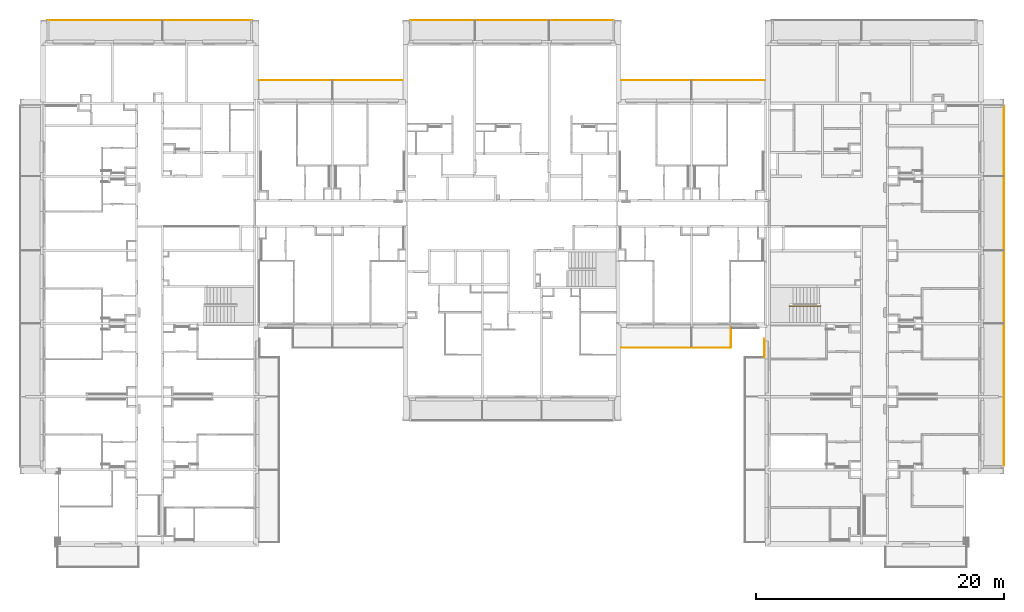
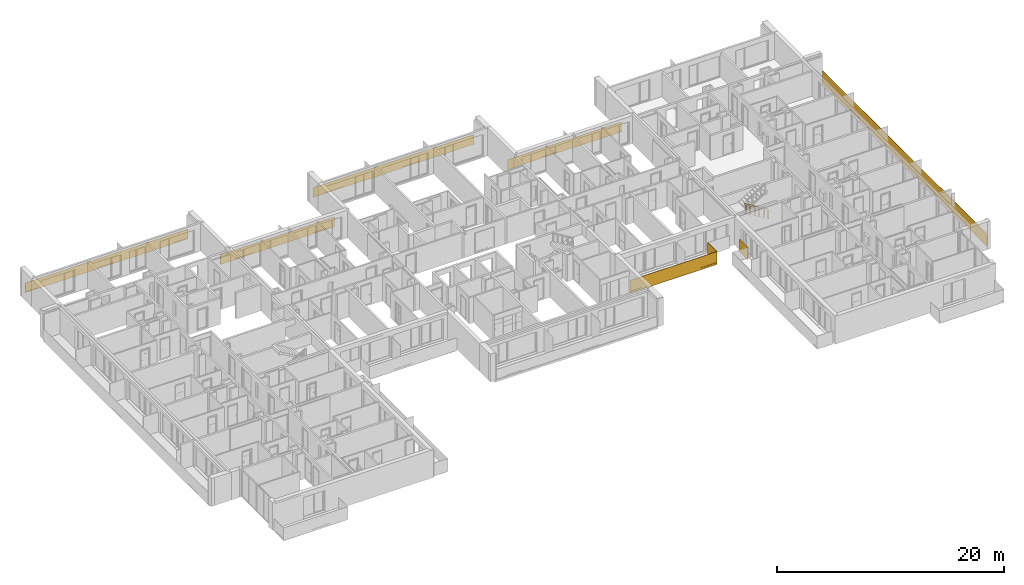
# One storey, part 6 of 64: 8 railings.
"""IFC2X3 building model written with IfcOpenShell, lengths in millimetres."""

from ifc_helpers import new_model, entity, si_unit, converted_unit, derived_unit, money_unit, direction, frame, origin_with_axes, place, context, subcontext, project, spatial, faceted_brep, material, material_list, type_object, element, save


model = new_model("IFC2X3")

# Units and contexts
model_context = context("Model", 3, precision=0.01, world=origin_with_axes(), true_north=direction((0.34421633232, 0.938890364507)))
body_context = subcontext(model_context, "Body", "Model", "MODEL_VIEW")
ifc_project = project(units=[si_unit("LENGTHUNIT", "METRE", prefix="MILLI"), si_unit("AREAUNIT", "SQUARE_METRE"), si_unit("VOLUMEUNIT", "CUBIC_METRE"), converted_unit("PLANEANGLEUNIT", "DEGREE", entity("IfcPlaneAngleMeasure", 0.0174532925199), si_unit("PLANEANGLEUNIT", "RADIAN"), dimensions=[0, 0, 0, 0, 0, 0, 0]), si_unit("SOLIDANGLEUNIT", "STERADIAN"), money_unit("USD"), converted_unit("TIMEUNIT", "Year", entity("IfcTimeMeasure", 31556926.0), si_unit("TIMEUNIT", "SECOND"), dimensions=[0, 0, 1, 0, 0, 0, 0]), si_unit("MASSUNIT", "GRAM", prefix="KILO"), si_unit("THERMODYNAMICTEMPERATUREUNIT", "DEGREE_CELSIUS"), si_unit("LUMINOUSINTENSITYUNIT", "LUMEN"), si_unit("ENERGYUNIT", "JOULE", prefix="MEGA"), derived_unit("THERMALCONDUCTANCEUNIT", [(si_unit("POWERUNIT", "WATT"), 1), (si_unit("LENGTHUNIT", "METRE"), -1), (si_unit("THERMODYNAMICTEMPERATUREUNIT", "KELVIN"), -1)]), derived_unit("SPECIFICHEATCAPACITYUNIT", [(si_unit("ENERGYUNIT", "JOULE"), 1), (si_unit("MASSUNIT", "GRAM", prefix="KILO"), -1), (si_unit("THERMODYNAMICTEMPERATUREUNIT", "KELVIN"), -1)]), derived_unit("MASSDENSITYUNIT", [(si_unit("MASSUNIT", "GRAM", prefix="KILO"), 1), (si_unit("VOLUMEUNIT", "CUBIC_METRE"), -1)])], contexts=[model_context])

# Site, building, storey
site_placement = place(None, origin_with_axes())
site = spatial("IfcSite", under=ifc_project, at=site_placement, Name="USTRONIE MORSKIE", CompositionType="ELEMENT")
building_placement = place(site_placement, origin_with_axes())
building = spatial("IfcBuilding", under=site, at=building_placement, Name="Budynek", CompositionType="ELEMENT")
storey_placement = place(building_placement, frame((0.0, 0.0, 7000.0), z_axis=(0.0, 0.0, 1.0), x_axis=(1.0, 0.0, 0.0)))
storey = spatial("IfcBuildingStorey", under=building, at=storey_placement, Name="PIĘTRO 2", CompositionType="ELEMENT", Elevation=7000.0)

# Railings
ifc_material_1 = material(Name="Szkło struktualne")
ifc_material_2 = material(Name="Profile aluminiowe")
ifc_material_list_1 = material_list([ifc_material_1, ifc_material_2])
railing_type = type_object("IfcRailingType", Name="Typ balustrady", PredefinedType="NOTDEFINED")
for number, where, z_axis, x_axis, name in (
    (1, (396617.920919, 746801.194135, 30.0), (0.0, 0.0, 1.0), (1.0, 0.0, 0.0), "BL1"),
    (2, (367367.920919, 746801.194135, 30.0), (0.0, 0.0, 1.0), (1.0, 0.0, 0.0), "BL1"),
):
    element("IfcRailing", number, at=place(storey_placement, frame(where, z_axis=z_axis, x_axis=x_axis)), inside=storey, type_object=railing_type, material=ifc_material_list_1, Name=name, PredefinedType="NOTDEFINED", context=body_context, shape_type="Brep", body=[
        faceted_brep([(11650.0, -240.0, -100.0), (0.0, -240.0, -100.0), (0.0, -240.0, 950.0), (11650.0, -240.0, 950.0), (0.0, -260.0, -100.0), (11650.0, -260.0, -100.0), (0.0, -260.0, 950.0), (11650.0, -260.0, 950.0)], [[[0, 1, 2, 3]], [[4, 1, 0, 5]], [[6, 2, 1, 4]], [[3, 2, 6, 7]], [[0, 3, 7, 5]], [[6, 4, 5, 7]]]),
        faceted_brep([(11650.0, -265.0, -5.0), (0.0, -265.0, -5.0), (0.0, -265.0, -105.0), (11650.0, -265.0, -105.0), (11650.0, -260.0, -5.0), (0.0, -260.0, -5.0), (0.0, -260.0, -100.0), (0.0, -240.0, -100.0), (0.0, -240.0, -5.0), (0.0, -235.0, -5.0), (0.0, -235.0, -105.0), (11650.0, -235.0, -105.0), (11650.0, -235.0, -5.0), (11650.0, -240.0, -5.0), (11650.0, -240.0, -100.0), (11650.0, -260.0, -100.0)], [[[0, 1, 2, 3]], [[1, 0, 4, 5]], [[6, 7, 8, 9, 10, 2, 1, 5]], [[10, 11, 3, 2]], [[11, 12, 13, 14, 15, 4, 0, 3]], [[15, 6, 5, 4]], [[7, 6, 15, 14]], [[8, 7, 14, 13]], [[9, 8, 13, 12]], [[11, 10, 9, 12]]]),
    ])
railing_1_placement = place(storey_placement, frame((427517.920919, 744501.199036, -200.0), z_axis=(0.0, 0.0, 1.0), x_axis=(1.0, 0.0, 0.0)))
element("IfcRailing", 3, at=railing_1_placement, inside=storey, type_object=railing_type, material=ifc_material_list_1, Name="BL1", PredefinedType="NOTDEFINED", context=body_context, shape_type="Brep", body=[
    faceted_brep([(9.99999999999, -29070.0, -100.0), (9.99999999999, -20.0, -100.0), (9.99999999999, -20.0, 1250.0), (9.99999999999, -29070.0, 1250.0), (-9.99999999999, -20.0, -100.0), (-9.99999999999, -29070.0, -100.0), (-9.99999999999, -20.0, 1250.0), (-9.99999999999, -29070.0, 1250.0)], [[[0, 1, 2, 3]], [[4, 1, 0, 5]], [[6, 2, 1, 4]], [[3, 2, 6, 7]], [[0, 3, 7, 5]], [[6, 4, 5, 7]]]),
    faceted_brep([(-15.0, -29070.0, -5.0), (-15.0, -20.0, -5.0), (-15.0, -20.0, -105.0), (-15.0, -29070.0, -105.0), (-9.99999999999, -29070.0, -5.0), (-9.99999999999, -20.0, -5.0), (-9.99999999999, -20.0, -100.0), (9.99999999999, -20.0, -100.0), (9.99999999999, -20.0, -5.0), (15.0, -20.0, -5.0), (15.0, -20.0, -105.0), (15.0, -29070.0, -105.0), (15.0, -29070.0, -5.0), (9.99999999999, -29070.0, -5.0), (9.99999999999, -29070.0, -100.0), (-9.99999999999, -29070.0, -100.0)], [[[0, 1, 2, 3]], [[1, 0, 4, 5]], [[6, 7, 8, 9, 10, 2, 1, 5]], [[10, 11, 3, 2]], [[11, 12, 13, 14, 15, 4, 0, 3]], [[15, 6, 5, 4]], [[7, 6, 15, 14]], [[8, 7, 14, 13]], [[9, 8, 13, 12]], [[11, 10, 9, 12]]]),
])
railing_2_placement = place(storey_placement, frame((379997.772717, 751416.184464, 30.0), z_axis=(0.0, 0.0, 1.0), x_axis=(1.0, 0.0, 0.0)))
element("IfcRailing", 4, at=railing_2_placement, inside=storey, type_object=railing_type, material=ifc_material_list_1, Name="BL1", PredefinedType="NOTDEFINED", context=body_context, shape_type="Brep", body=[
    faceted_brep([(16035.1447373, -9.99970433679, -100.0), (-394.85486771, -10.1379253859, -100.0), (-394.85486771, -10.1379253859, 950.0), (16035.1447373, -9.99970433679, 950.0), (-394.854699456, -30.1379253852, -100.0), (16035.1449055, -29.9997043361, -100.0), (-394.854699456, -30.1379253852, 950.0), (16035.1449055, -29.9997043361, 950.0)], [[[0, 1, 2, 3]], [[4, 1, 0, 5]], [[6, 2, 1, 4]], [[3, 2, 6, 7]], [[0, 3, 7, 5]], [[6, 4, 5, 7]]]),
    faceted_brep([(16035.1449476, -34.999704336, -5.0), (-394.854657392, -35.1379253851, -5.0), (-394.854657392, -35.1379253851, -105.0), (16035.1449476, -34.999704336, -105.0), (16035.1449055, -29.9997043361, -5.0), (-394.854699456, -30.1379253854, -5.0), (-394.854699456, -30.1379253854, -100.0), (-394.85486771, -10.1379253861, -100.0), (-394.85486771, -10.1379253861, -5.0), (-394.854909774, -5.13792538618, -5.0), (-394.854909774, -5.13792538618, -105.0), (16035.1446952, -4.99970433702, -105.0), (16035.1446952, -4.99970433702, -5.0), (16035.1447373, -9.99970433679, -5.0), (16035.1447373, -9.99970433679, -100.0), (16035.1449055, -29.9997043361, -100.0)], [[[0, 1, 2, 3]], [[1, 0, 4, 5]], [[6, 7, 8, 9, 10, 2, 1, 5]], [[10, 11, 3, 2]], [[11, 12, 13, 14, 15, 4, 0, 3]], [[15, 6, 5, 4]], [[7, 6, 15, 14]], [[8, 7, 14, 13]], [[9, 8, 13, 12]], [[11, 10, 9, 12]]]),
])
railing_3_placement = place(storey_placement, frame((366747.920919, 751396.199036, 30.0), z_axis=(0.0, 0.0, 1.0), x_axis=(-1.0, 0.0, 0.0)))
element("IfcRailing", 5, at=railing_3_placement, inside=storey, type_object=railing_type, material=ifc_material_list_1, Name="BL1", PredefinedType="NOTDEFINED", context=body_context, shape_type="Brep", body=[
    faceted_brep([(16460.0, 9.99999999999, -100.0), (-100.0, 9.99999999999, -100.0), (-100.0, 9.99999999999, 950.0), (16460.0, 9.99999999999, 950.0), (-100.0, -9.99999999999, -100.0), (16460.0, -9.99999999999, -100.0), (-100.0, -9.99999999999, 950.0), (16460.0, -9.99999999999, 950.0)], [[[0, 1, 2, 3]], [[4, 1, 0, 5]], [[6, 2, 1, 4]], [[3, 2, 6, 7]], [[0, 3, 7, 5]], [[6, 4, 5, 7]]]),
    faceted_brep([(16460.0, -15.0, -5.0), (-100.0, -15.0, -5.0), (-100.0, -15.0, -105.0), (16460.0, -15.0, -105.0), (16460.0, -9.99999999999, -5.0), (-100.0, -9.99999999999, -5.0), (-100.0, -9.99999999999, -100.0), (-100.0, 9.99999999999, -100.0), (-100.0, 9.99999999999, -5.0), (-100.0, 15.0, -5.0), (-100.0, 15.0, -105.0), (16460.0, 15.0, -105.0), (16460.0, 15.0, -5.0), (16460.0, 9.99999999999, -5.0), (16460.0, 9.99999999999, -100.0), (16460.0, -9.99999999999, -100.0)], [[[0, 1, 2, 3]], [[1, 0, 4, 5]], [[6, 7, 8, 9, 10, 2, 1, 5]], [[10, 11, 3, 2]], [[11, 12, 13, 14, 15, 4, 0, 3]], [[15, 6, 5, 4]], [[7, 6, 15, 14]], [[8, 7, 14, 13]], [[9, 8, 13, 12]], [[11, 10, 9, 12]]]),
])
railing_4_placement = place(storey_placement, frame((408257.883673, 724111.198359, 0.0), z_axis=(0.0, 0.0, 1.0), x_axis=(1.0, 0.0, 0.0)))
element("IfcRailing", 6, at=railing_4_placement, inside=storey, type_object=railing_type, material=ifc_material_list_1, Name="BL1", PredefinedType="NOTDEFINED", context=body_context, shape_type="Brep", body=[
    faceted_brep([(-60.0, 1550.0, -300.0), (-60.0, 80.0, -300.0), (-60.0, 80.0, 1070.0), (-60.0, 1550.0, 1070.0), (-40.0, 80.0, -300.0), (-40.0, 1550.0, -300.0), (-40.0, 80.0, 1070.0), (-40.0, 1550.0, 1070.0)], [[[0, 1, 2, 3]], [[4, 1, 0, 5]], [[6, 2, 1, 4]], [[3, 2, 6, 7]], [[0, 3, 7, 5]], [[6, 4, 5, 7]]]),
    faceted_brep([(-35.0, 1550.0, -105.0), (-35.0, 80.0, -105.0), (-35.0, 80.0, -305.0), (-35.0, 1550.0, -305.0), (-40.0, 1550.0, -105.0), (-40.0, 80.0, -105.0), (-40.0, 80.0, -300.0), (-60.0, 80.0, -300.0), (-60.0, 80.0, -105.0), (-65.0, 80.0, -105.0), (-65.0, 80.0, -305.0), (-65.0, 1550.0, -305.0), (-65.0, 1550.0, -105.0), (-60.0, 1550.0, -105.0), (-60.0, 1550.0, -300.0), (-40.0, 1550.0, -300.0)], [[[0, 1, 2, 3]], [[1, 0, 4, 5]], [[6, 7, 8, 9, 10, 2, 1, 5]], [[10, 11, 3, 2]], [[11, 12, 13, 14, 15, 4, 0, 3]], [[15, 6, 5, 4]], [[7, 6, 15, 14]], [[8, 7, 14, 13]], [[9, 8, 13, 12]], [[11, 10, 9, 12]]]),
])
ifc_material_list_2 = material_list([ifc_material_1, ifc_material_2, ifc_material_1, ifc_material_2])
railing_5_placement = place(storey_placement, frame((396619.640549, 725001.198359, 0.0), z_axis=(0.0, 0.0, 1.0), x_axis=(-1.0, 0.0, 0.0)))
element("IfcRailing", 7, at=railing_5_placement, inside=storey, type_object=railing_type, material=ifc_material_list_2, Name="BL1", PredefinedType="NOTDEFINED", context=body_context, shape_type="Brep", body=[
    faceted_brep([(-29.9999996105, 40.0000002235, -300.00000039), (-29.9999996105, 40.0000002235, 1069.99999972), (-8878.27323778, 40.0000002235, 1069.99999972), (-8878.27323778, 40.0000002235, -300.00000039), (-29.9999996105, 59.9999997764, 1069.99999972), (-29.9999996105, 59.9999997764, -300.00000039), (-8898.27323733, 59.9999997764, 1069.99999972), (-8898.27323733, 59.9999997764, -300.00000039)], [[[0, 1, 2, 3]], [[4, 1, 0, 5]], [[2, 1, 4, 6]], [[3, 2, 6, 7]], [[5, 0, 3, 7]], [[6, 4, 5, 7]]]),
    faceted_brep([(-8888.27323738, 64.9999999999, -105.0), (-30.0, 64.9999999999, -105.0), (-30.0, 64.9999999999, -305.0), (-8888.27323738, 64.9999999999, -305.0), (-8888.27323738, 59.9999999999, -105.0), (-30.0, 59.9999999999, -105.0), (-30.0, 59.9999999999, -300.0), (-30.0, 40.0, -300.0), (-30.0, 40.0, -105.0), (-30.0, 35.0, -105.0), (-30.0, 35.0, -305.0), (-8888.27323738, 35.0, -305.0), (-8888.27323738, 35.0, -105.0), (-8888.27323738, 40.0, -105.0), (-8888.27323738, 40.0, -300.0), (-8888.27323738, 59.9999999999, -300.0)], [[[0, 1, 2, 3]], [[1, 0, 4, 5]], [[6, 7, 8, 9, 10, 2, 1, 5]], [[10, 11, 3, 2]], [[11, 12, 13, 14, 15, 4, 0, 3]], [[15, 6, 5, 4]], [[7, 6, 15, 14]], [[8, 7, 14, 13]], [[9, 8, 13, 12]], [[11, 10, 9, 12]]]),
    faceted_brep([(-8878.2732376, 40.000000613, -300.00000039), (-8878.2732376, 40.000000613, 1069.99999972), (-8878.2732376, -1590.00067728, 1069.99999972), (-8878.2732376, -1590.00067728, -300.00000039), (-8898.27323715, 60.0000001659, 1069.99999972), (-8898.27323715, 60.0000001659, -300.00000039), (-8898.27323715, -1590.00067728, 1069.99999972), (-8898.27323715, -1590.00067728, -300.00000039)], [[[0, 1, 2, 3]], [[4, 1, 0, 5]], [[2, 1, 4, 6]], [[3, 2, 6, 7]], [[5, 0, 3, 7]], [[6, 4, 5, 7]]]),
    faceted_brep([(-8903.27323738, -1590.00067759, -105.0), (-8903.27323738, 50.0, -105.0), (-8903.27323738, 50.0, -305.0), (-8903.27323738, -1590.00067759, -305.0), (-8898.27323738, -1590.00067759, -105.0), (-8898.27323738, 50.0, -105.0), (-8898.27323738, 50.0, -300.0), (-8878.27323738, 50.0, -300.0), (-8878.27323738, 50.0, -105.0), (-8873.27323738, 50.0, -105.0), (-8873.27323738, 50.0, -305.0), (-8873.27323738, -1590.00067759, -305.0), (-8873.27323738, -1590.00067759, -105.0), (-8878.27323738, -1590.00067759, -105.0), (-8878.27323738, -1590.00067759, -300.0), (-8898.27323738, -1590.00067759, -300.0)], [[[0, 1, 2, 3]], [[1, 0, 4, 5]], [[6, 7, 8, 9, 10, 2, 1, 5]], [[10, 11, 3, 2]], [[11, 12, 13, 14, 15, 4, 0, 3]], [[15, 6, 5, 4]], [[7, 6, 15, 14]], [[8, 7, 14, 13]], [[9, 8, 13, 12]], [[11, 10, 9, 12]]]),
])
ifc_material_3 = material(Name="Stal konstrukcyjna")
ifc_material_4 = material(Name="Stal nierdzewna")
ifc_material_list_3 = material_list([ifc_material_3, ifc_material_3, ifc_material_4, ifc_material_4, ifc_material_4, ifc_material_3, ifc_material_3, ifc_material_3, ifc_material_3, ifc_material_3, ifc_material_3, ifc_material_3, ifc_material_3, ifc_material_3, ifc_material_3, ifc_material_3, ifc_material_3, ifc_material_3, ifc_material_3, ifc_material_3, ifc_material_3, ifc_material_3, ifc_material_3, ifc_material_3, ifc_material_3, ifc_material_3])
railing_6_placement = place(storey_placement, frame((412739.660049, 728301.198905, 166.666666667), z_axis=(0.0, 0.0, 1.0), x_axis=(1.0, 0.0, 0.0)))
element("IfcRailing", 8, at=railing_6_placement, inside=storey, type_object=railing_type, material=ifc_material_list_3, Name="BL1", PredefinedType="NOTDEFINED", context=body_context, shape_type="Brep", body=[
    faceted_brep([(-9.99999999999, 45.0, -144.051724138), (-9.99999999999, 25.0, -144.051724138), (-9.99999999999, 25.0, 755.948275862), (-9.99999999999, 45.0, 755.948275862), (9.99999999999, 45.0, -155.948275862), (9.99999999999, 25.0, -155.948275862), (-5.0, 40.0, -147.025862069), (-5.0, 30.0, -147.025862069), (5.0, 30.0, -152.974137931), (5.0, 40.0, -152.974137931), (9.99999999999, 25.0, 744.051724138), (9.99999999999, 45.0, 744.051724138), (-5.0, 40.0, 752.974137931), (5.0, 40.0, 747.025862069), (5.0, 30.0, 747.025862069), (-5.0, 30.0, 752.974137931)], [[[0, 1, 2, 3]], [[0, 4, 5, 1], [6, 7, 8, 9]], [[1, 5, 10, 2]], [[3, 2, 10, 11], [12, 13, 14, 15]], [[4, 0, 3, 11]], [[5, 4, 11, 10]], [[7, 6, 12, 15]], [[8, 7, 15, 14]], [[9, 8, 14, 13]], [[6, 9, 13, 12]]]),
    faceted_brep([(-2531.73913043, 45.0, 1355.94827586), (-2531.73913043, 25.0, 1355.94827586), (-2531.73913043, 25.0, 2255.94827586), (-2531.73913043, 45.0, 2255.94827586), (-2511.73913043, 45.0, 1344.05172414), (-2511.73913043, 25.0, 1344.05172414), (-2526.73913043, 40.0, 1352.97413793), (-2526.73913043, 30.0, 1352.97413793), (-2516.73913043, 30.0, 1347.02586207), (-2516.73913043, 40.0, 1347.02586207), (-2511.73913043, 25.0, 2244.05172414), (-2511.73913043, 45.0, 2244.05172414), (-2526.73913043, 40.0, 2252.97413793), (-2516.73913043, 40.0, 2247.02586207), (-2516.73913043, 30.0, 2247.02586207), (-2526.73913043, 30.0, 2252.97413793)], [[[0, 1, 2, 3]], [[0, 4, 5, 1], [6, 7, 8, 9]], [[1, 5, 10, 2]], [[3, 2, 10, 11], [12, 13, 14, 15]], [[4, 0, 3, 11]], [[5, 4, 11, 10]], [[7, 6, 12, 15]], [[8, 7, 15, 14]], [[9, 8, 14, 13]], [[6, 9, 13, 12]]]),
    faceted_brep([(0.0, 59.9999999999, 900.0), (-12.7805831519, 59.9999999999, 878.513802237), (-2534.51971359, 59.9999999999, 2378.51380224), (-2521.73913043, 59.9999999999, 2400.0), (0.0, 9.99999999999, 900.0), (-12.7805831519, 9.99999999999, 878.513802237), (-12.7805831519, 25.0, 878.513802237), (-10.2244665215, 25.0, 882.81104179), (-10.2244665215, 45.0, 882.81104179), (-12.7805831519, 45.0, 878.513802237), (-2534.51971359, 45.0, 2378.51380224), (-2531.96359696, 45.0, 2382.81104179), (-2531.96359696, 25.0, 2382.81104179), (-2534.51971359, 25.0, 2378.51380224), (-2534.51971359, 9.99999999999, 2378.51380224), (-2521.73913043, 9.99999999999, 2400.0)], [[[0, 1, 2, 3]], [[0, 4, 5, 6, 7, 8, 9, 1]], [[1, 9, 10, 2]], [[3, 2, 10, 11, 12, 13, 14, 15]], [[4, 0, 3, 15]], [[5, 4, 15, 14]], [[6, 5, 14, 13]], [[7, 6, 13, 12]], [[8, 7, 12, 11]], [[9, 8, 11, 10]]]),
    faceted_brep([(-12.7805831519, 45.0, 878.513802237), (-12.7805831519, 25.0, 878.513802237), (-2534.51971359, 25.0, 2378.51380224), (-2534.51971359, 45.0, 2378.51380224), (-10.2244665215, 45.0, 882.81104179), (-10.2244665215, 25.0, 882.81104179), (-2531.96359696, 25.0, 2382.81104179), (-2531.96359696, 45.0, 2382.81104179)], [[[0, 1, 2, 3]], [[0, 4, 5, 1]], [[1, 5, 6, 2]], [[3, 2, 6, 7]], [[4, 0, 3, 7]], [[5, 4, 7, 6]]]),
    faceted_brep([(-45.4723955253, 45.0, 776.472725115), (-45.4723955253, 25.0, 776.472725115), (-45.4723955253, 25.0, 897.95979408), (-45.4723955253, 45.0, 897.95979408), (-40.4723955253, 45.0, 776.472725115), (-40.4723955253, 25.0, 776.472725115), (-40.4723955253, 25.0, 896.472725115), (-42.9723955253, 25.0, 897.95979408), (-42.9723955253, 45.0, 897.95979408), (-40.4723955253, 45.0, 896.472725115)], [[[0, 1, 2, 3]], [[0, 4, 5, 1]], [[1, 5, 6, 7, 2]], [[3, 2, 7, 8]], [[4, 0, 3, 8, 9]], [[5, 4, 9, 6]], [[7, 6, 9, 8]]]),
    faceted_brep([(-2481.26673491, 45.0, 2225.35039251), (-2481.26673491, 25.0, 2225.35039251), (-2481.26673491, 25.0, 2346.83746147), (-2481.26673491, 45.0, 2346.83746147), (-2476.26673491, 45.0, 2225.35039251), (-2476.26673491, 25.0, 2225.35039251), (-2476.26673491, 25.0, 2345.35039251), (-2478.76673491, 25.0, 2346.83746147), (-2478.76673491, 45.0, 2346.83746147), (-2476.26673491, 45.0, 2345.35039251)], [[[0, 1, 2, 3]], [[0, 4, 5, 1]], [[1, 5, 6, 7, 2]], [[3, 2, 7, 8]], [[4, 0, 3, 8, 9]], [[5, 4, 9, 6]], [[7, 6, 9, 8]]]),
    faceted_brep([(0.0, 54.9999999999, 750.0), (-2.55611663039, 54.9999999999, 745.702760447), (-2524.29524707, 54.9999999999, 2245.70276045), (-2521.73913043, 54.9999999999, 2250.0), (0.0, 15.0, 750.0), (-2.55611663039, 15.0, 745.702760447), (-2524.29524707, 15.0, 2245.70276045), (-2521.73913043, 15.0, 2250.0)], [[[0, 1, 2, 3]], [[0, 4, 5, 1]], [[1, 5, 6, 2]], [[3, 2, 6, 7]], [[4, 0, 3, 7]], [[5, 4, 7, 6]]]),
    faceted_brep([(1.27805831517, 54.9999999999, -157.851380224), (-1.27805831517, 54.9999999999, -162.148619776), (-2523.01718875, 54.9999999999, 1337.85138022), (-2520.46107212, 54.9999999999, 1342.14861978), (1.27805831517, 15.0, -157.851380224), (-1.27805831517, 15.0, -162.148619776), (-2523.01718875, 15.0, 1337.85138022), (-2520.46107212, 15.0, 1342.14861978)], [[[0, 1, 2, 3]], [[0, 4, 5, 1]], [[1, 5, 6, 2]], [[3, 2, 6, 7]], [[4, 0, 3, 7]], [[5, 4, 7, 6]]]),
    faceted_brep([(-117.124505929, 47.5, -85.3311128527), (-117.124505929, 22.4999999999, -85.3311128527), (-117.124505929, 22.4999999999, 814.668887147), (-117.124505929, 47.5, 814.668887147), (-112.124505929, 47.5, -88.3052507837), (-112.124505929, 22.4999999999, -88.3052507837), (-112.124505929, 22.4999999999, 811.694749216), (-112.124505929, 47.5, 811.694749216)], [[[0, 1, 2, 3]], [[0, 4, 5, 1]], [[1, 5, 6, 2]], [[3, 2, 6, 7]], [[4, 0, 3, 7]], [[5, 4, 7, 6]]]),
    faceted_brep([(-231.749011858, 47.5, -17.1492946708), (-231.749011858, 22.4999999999, -17.1492946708), (-231.749011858, 22.4999999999, 882.850705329), (-231.749011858, 47.5, 882.850705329), (-226.749011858, 47.5, -20.1234326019), (-226.749011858, 22.4999999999, -20.1234326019), (-226.749011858, 22.4999999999, 879.876567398), (-226.749011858, 47.5, 879.876567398)], [[[0, 1, 2, 3]], [[0, 4, 5, 1]], [[1, 5, 6, 2]], [[3, 2, 6, 7]], [[4, 0, 3, 7]], [[5, 4, 7, 6]]]),
    faceted_brep([(-346.373517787, 47.5, 51.032523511), (-346.373517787, 22.4999999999, 51.032523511), (-346.373517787, 22.4999999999, 951.032523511), (-346.373517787, 47.5, 951.032523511), (-341.373517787, 47.5, 48.0583855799), (-341.373517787, 22.4999999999, 48.0583855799), (-341.373517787, 22.4999999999, 948.05838558), (-341.373517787, 47.5, 948.05838558)], [[[0, 1, 2, 3]], [[0, 4, 5, 1]], [[1, 5, 6, 2]], [[3, 2, 6, 7]], [[4, 0, 3, 7]], [[5, 4, 7, 6]]]),
    faceted_brep([(-460.998023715, 47.5, 119.214341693), (-460.998023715, 22.4999999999, 119.214341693), (-460.998023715, 22.4999999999, 1019.21434169), (-460.998023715, 47.5, 1019.21434169), (-455.998023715, 47.5, 116.240203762), (-455.998023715, 22.4999999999, 116.240203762), (-455.998023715, 22.4999999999, 1016.24020376), (-455.998023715, 47.5, 1016.24020376)], [[[0, 1, 2, 3]], [[0, 4, 5, 1]], [[1, 5, 6, 2]], [[3, 2, 6, 7]], [[4, 0, 3, 7]], [[5, 4, 7, 6]]]),
    faceted_brep([(-575.622529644, 47.5, 187.396159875), (-575.622529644, 22.4999999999, 187.396159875), (-575.622529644, 22.4999999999, 1087.39615987), (-575.622529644, 47.5, 1087.39615987), (-570.622529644, 47.5, 184.422021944), (-570.622529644, 22.4999999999, 184.422021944), (-570.622529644, 22.4999999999, 1084.42202194), (-570.622529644, 47.5, 1084.42202194)], [[[0, 1, 2, 3]], [[0, 4, 5, 1]], [[1, 5, 6, 2]], [[3, 2, 6, 7]], [[4, 0, 3, 7]], [[5, 4, 7, 6]]]),
    faceted_brep([(-690.247035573, 47.5, 255.577978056), (-690.247035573, 22.4999999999, 255.577978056), (-690.247035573, 22.4999999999, 1155.57797806), (-690.247035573, 47.5, 1155.57797806), (-685.247035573, 47.5, 252.603840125), (-685.247035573, 22.4999999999, 252.603840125), (-685.247035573, 22.4999999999, 1152.60384013), (-685.247035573, 47.5, 1152.60384013)], [[[0, 1, 2, 3]], [[0, 4, 5, 1]], [[1, 5, 6, 2]], [[3, 2, 6, 7]], [[4, 0, 3, 7]], [[5, 4, 7, 6]]]),
    faceted_brep([(-804.871541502, 47.5, 323.759796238), (-804.871541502, 22.4999999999, 323.759796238), (-804.871541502, 22.4999999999, 1223.75979624), (-804.871541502, 47.5, 1223.75979624), (-799.871541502, 47.5, 320.785658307), (-799.871541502, 22.4999999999, 320.785658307), (-799.871541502, 22.4999999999, 1220.78565831), (-799.871541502, 47.5, 1220.78565831)], [[[0, 1, 2, 3]], [[0, 4, 5, 1]], [[1, 5, 6, 2]], [[3, 2, 6, 7]], [[4, 0, 3, 7]], [[5, 4, 7, 6]]]),
    faceted_brep([(-919.496047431, 47.5, 391.94161442), (-919.496047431, 22.4999999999, 391.94161442), (-919.496047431, 22.4999999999, 1291.94161442), (-919.496047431, 47.5, 1291.94161442), (-914.496047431, 47.5, 388.967476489), (-914.496047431, 22.4999999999, 388.967476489), (-914.496047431, 22.4999999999, 1288.96747649), (-914.496047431, 47.5, 1288.96747649)], [[[0, 1, 2, 3]], [[0, 4, 5, 1]], [[1, 5, 6, 2]], [[3, 2, 6, 7]], [[4, 0, 3, 7]], [[5, 4, 7, 6]]]),
    faceted_brep([(-1034.12055336, 47.5, 460.123432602), (-1034.12055336, 22.4999999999, 460.123432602), (-1034.12055336, 22.4999999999, 1360.1234326), (-1034.12055336, 47.5, 1360.1234326), (-1029.12055336, 47.5, 457.149294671), (-1029.12055336, 22.4999999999, 457.149294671), (-1029.12055336, 22.4999999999, 1357.14929467), (-1029.12055336, 47.5, 1357.14929467)], [[[0, 1, 2, 3]], [[0, 4, 5, 1]], [[1, 5, 6, 2]], [[3, 2, 6, 7]], [[4, 0, 3, 7]], [[5, 4, 7, 6]]]),
    faceted_brep([(-1148.74505929, 47.5, 528.305250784), (-1148.74505929, 22.4999999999, 528.305250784), (-1148.74505929, 22.4999999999, 1428.30525078), (-1148.74505929, 47.5, 1428.30525078), (-1143.74505929, 47.5, 525.331112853), (-1143.74505929, 22.4999999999, 525.331112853), (-1143.74505929, 22.4999999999, 1425.33111285), (-1143.74505929, 47.5, 1425.33111285)], [[[0, 1, 2, 3]], [[0, 4, 5, 1]], [[1, 5, 6, 2]], [[3, 2, 6, 7]], [[4, 0, 3, 7]], [[5, 4, 7, 6]]]),
    faceted_brep([(-1263.36956522, 47.5, 596.487068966), (-1263.36956522, 22.4999999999, 596.487068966), (-1263.36956522, 22.4999999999, 1496.48706897), (-1263.36956522, 47.5, 1496.48706897), (-1258.36956522, 47.5, 593.512931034), (-1258.36956522, 22.4999999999, 593.512931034), (-1258.36956522, 22.4999999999, 1493.51293103), (-1258.36956522, 47.5, 1493.51293103)], [[[0, 1, 2, 3]], [[0, 4, 5, 1]], [[1, 5, 6, 2]], [[3, 2, 6, 7]], [[4, 0, 3, 7]], [[5, 4, 7, 6]]]),
    faceted_brep([(-1377.99407115, 47.5, 664.668887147), (-1377.99407115, 22.4999999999, 664.668887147), (-1377.99407115, 22.4999999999, 1564.66888715), (-1377.99407115, 47.5, 1564.66888715), (-1372.99407115, 47.5, 661.694749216), (-1372.99407115, 22.4999999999, 661.694749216), (-1372.99407115, 22.4999999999, 1561.69474922), (-1372.99407115, 47.5, 1561.69474922)], [[[0, 1, 2, 3]], [[0, 4, 5, 1]], [[1, 5, 6, 2]], [[3, 2, 6, 7]], [[4, 0, 3, 7]], [[5, 4, 7, 6]]]),
    faceted_brep([(-1492.61857708, 47.5, 732.850705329), (-1492.61857708, 22.4999999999, 732.850705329), (-1492.61857708, 22.4999999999, 1632.85070533), (-1492.61857708, 47.5, 1632.85070533), (-1487.61857708, 47.5, 729.876567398), (-1487.61857708, 22.4999999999, 729.876567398), (-1487.61857708, 22.4999999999, 1629.8765674), (-1487.61857708, 47.5, 1629.8765674)], [[[0, 1, 2, 3]], [[0, 4, 5, 1]], [[1, 5, 6, 2]], [[3, 2, 6, 7]], [[4, 0, 3, 7]], [[5, 4, 7, 6]]]),
    faceted_brep([(-1607.243083, 47.5, 801.032523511), (-1607.243083, 22.4999999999, 801.032523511), (-1607.243083, 22.4999999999, 1701.03252351), (-1607.243083, 47.5, 1701.03252351), (-1602.243083, 47.5, 798.05838558), (-1602.243083, 22.4999999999, 798.05838558), (-1602.243083, 22.4999999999, 1698.05838558), (-1602.243083, 47.5, 1698.05838558)], [[[0, 1, 2, 3]], [[0, 4, 5, 1]], [[1, 5, 6, 2]], [[3, 2, 6, 7]], [[4, 0, 3, 7]], [[5, 4, 7, 6]]]),
    faceted_brep([(-1721.86758893, 47.5, 869.214341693), (-1721.86758893, 22.4999999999, 869.214341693), (-1721.86758893, 22.4999999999, 1769.21434169), (-1721.86758893, 47.5, 1769.21434169), (-1716.86758893, 47.5, 866.240203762), (-1716.86758893, 22.4999999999, 866.240203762), (-1716.86758893, 22.4999999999, 1766.24020376), (-1716.86758893, 47.5, 1766.24020376)], [[[0, 1, 2, 3]], [[0, 4, 5, 1]], [[1, 5, 6, 2]], [[3, 2, 6, 7]], [[4, 0, 3, 7]], [[5, 4, 7, 6]]]),
    faceted_brep([(-1836.49209486, 47.5, 937.396159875), (-1836.49209486, 22.4999999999, 937.396159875), (-1836.49209486, 22.4999999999, 1837.39615987), (-1836.49209486, 47.5, 1837.39615987), (-1831.49209486, 47.5, 934.422021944), (-1831.49209486, 22.4999999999, 934.422021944), (-1831.49209486, 22.4999999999, 1834.42202194), (-1831.49209486, 47.5, 1834.42202194)], [[[0, 1, 2, 3]], [[0, 4, 5, 1]], [[1, 5, 6, 2]], [[3, 2, 6, 7]], [[4, 0, 3, 7]], [[5, 4, 7, 6]]]),
    faceted_brep([(-1951.11660079, 47.5, 1005.57797806), (-1951.11660079, 22.4999999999, 1005.57797806), (-1951.11660079, 22.4999999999, 1905.57797806), (-1951.11660079, 47.5, 1905.57797806), (-1946.11660079, 47.5, 1002.60384013), (-1946.11660079, 22.4999999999, 1002.60384013), (-1946.11660079, 22.4999999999, 1902.60384013), (-1946.11660079, 47.5, 1902.60384013)], [[[0, 1, 2, 3]], [[0, 4, 5, 1]], [[1, 5, 6, 2]], [[3, 2, 6, 7]], [[4, 0, 3, 7]], [[5, 4, 7, 6]]]),
    faceted_brep([(-2065.74110672, 47.5, 1073.75979624), (-2065.74110672, 22.4999999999, 1073.75979624), (-2065.74110672, 22.4999999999, 1973.75979624), (-2065.74110672, 47.5, 1973.75979624), (-2060.74110672, 47.5, 1070.78565831), (-2060.74110672, 22.4999999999, 1070.78565831), (-2060.74110672, 22.4999999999, 1970.78565831), (-2060.74110672, 47.5, 1970.78565831)], [[[0, 1, 2, 3]], [[0, 4, 5, 1]], [[1, 5, 6, 2]], [[3, 2, 6, 7]], [[4, 0, 3, 7]], [[5, 4, 7, 6]]]),
    faceted_brep([(-2180.36561265, 47.5, 1141.94161442), (-2180.36561265, 22.4999999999, 1141.94161442), (-2180.36561265, 22.4999999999, 2041.94161442), (-2180.36561265, 47.5, 2041.94161442), (-2175.36561265, 47.5, 1138.96747649), (-2175.36561265, 22.4999999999, 1138.96747649), (-2175.36561265, 22.4999999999, 2038.96747649), (-2175.36561265, 47.5, 2038.96747649)], [[[0, 1, 2, 3]], [[0, 4, 5, 1]], [[1, 5, 6, 2]], [[3, 2, 6, 7]], [[4, 0, 3, 7]], [[5, 4, 7, 6]]]),
    faceted_brep([(-2294.99011858, 47.5, 1210.1234326), (-2294.99011858, 22.4999999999, 1210.1234326), (-2294.99011858, 22.4999999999, 2110.1234326), (-2294.99011858, 47.5, 2110.1234326), (-2289.99011858, 47.5, 1207.14929467), (-2289.99011858, 22.4999999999, 1207.14929467), (-2289.99011858, 22.4999999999, 2107.14929467), (-2289.99011858, 47.5, 2107.14929467)], [[[0, 1, 2, 3]], [[0, 4, 5, 1]], [[1, 5, 6, 2]], [[3, 2, 6, 7]], [[4, 0, 3, 7]], [[5, 4, 7, 6]]]),
    faceted_brep([(-2409.61462451, 47.5, 1278.30525078), (-2409.61462451, 22.4999999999, 1278.30525078), (-2409.61462451, 22.4999999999, 2178.30525078), (-2409.61462451, 47.5, 2178.30525078), (-2404.61462451, 47.5, 1275.33111285), (-2404.61462451, 22.4999999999, 1275.33111285), (-2404.61462451, 22.4999999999, 2175.33111285), (-2404.61462451, 47.5, 2175.33111285)], [[[0, 1, 2, 3]], [[0, 4, 5, 1]], [[1, 5, 6, 2]], [[3, 2, 6, 7]], [[4, 0, 3, 7]], [[5, 4, 7, 6]]]),
])

save(model, "model.ifc")
